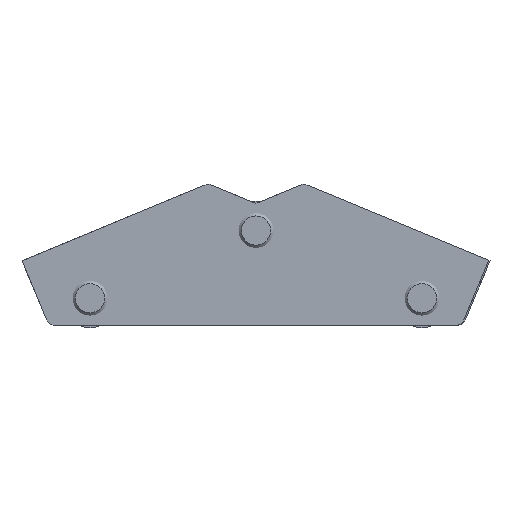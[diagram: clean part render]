
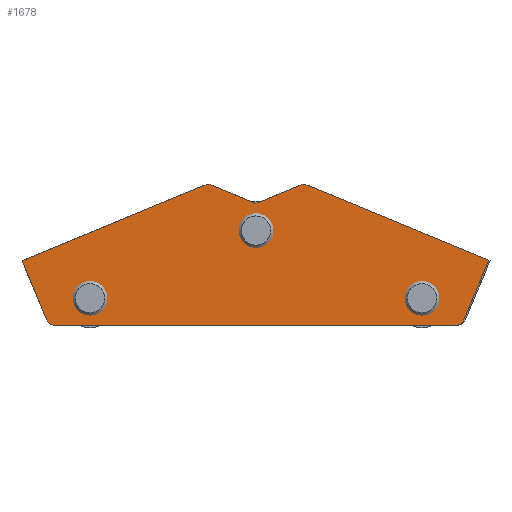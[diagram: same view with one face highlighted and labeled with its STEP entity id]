
A CAD part, left-side view. The second image highlights one B-rep face of the part: STEP entity #1678.
In plain terms, the highlighted planar face has unit normal (-1, 0, 0).
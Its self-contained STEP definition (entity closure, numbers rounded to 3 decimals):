
#61=FACE_BOUND('',#263,.T.);
#62=FACE_BOUND('',#264,.T.);
#63=FACE_BOUND('',#265,.T.);
#94=PLANE('',#1900);
#166=FACE_OUTER_BOUND('',#262,.T.);
#262=EDGE_LOOP('',(#1355,#1356,#1357,#1358,#1359,#1360,#1361,#1362,#1363,
#1364,#1365));
#263=EDGE_LOOP('',(#1366));
#264=EDGE_LOOP('',(#1367));
#265=EDGE_LOOP('',(#1368));
#391=LINE('',#2761,#541);
#397=LINE('',#2778,#547);
#401=LINE('',#2786,#551);
#402=LINE('',#2788,#552);
#403=LINE('',#2792,#553);
#404=LINE('',#2796,#554);
#405=LINE('',#2797,#555);
#541=VECTOR('',#2247,10.);
#547=VECTOR('',#2263,10.);
#551=VECTOR('',#2269,10.);
#552=VECTOR('',#2270,10.);
#553=VECTOR('',#2273,10.);
#554=VECTOR('',#2276,10.);
#555=VECTOR('',#2277,10.);
#652=CIRCLE('',#1882,3.324);
#655=CIRCLE('',#1886,3.324);
#658=CIRCLE('',#1890,3.324);
#659=CIRCLE('',#1892,2.);
#662=CIRCLE('',#1898,2.);
#663=CIRCLE('',#1901,2.);
#664=CIRCLE('',#1902,2.);
#772=VERTEX_POINT('',#2724);
#775=VERTEX_POINT('',#2732);
#778=VERTEX_POINT('',#2740);
#779=VERTEX_POINT('',#2744);
#780=VERTEX_POINT('',#2745);
#786=VERTEX_POINT('',#2759);
#791=VERTEX_POINT('',#2772);
#792=VERTEX_POINT('',#2774);
#795=VERTEX_POINT('',#2785);
#796=VERTEX_POINT('',#2787);
#797=VERTEX_POINT('',#2789);
#798=VERTEX_POINT('',#2791);
#799=VERTEX_POINT('',#2793);
#800=VERTEX_POINT('',#2795);
#972=EDGE_CURVE('',#772,#772,#652,.T.);
#976=EDGE_CURVE('',#775,#775,#655,.T.);
#980=EDGE_CURVE('',#778,#778,#658,.T.);
#981=EDGE_CURVE('',#779,#780,#659,.T.);
#989=EDGE_CURVE('',#779,#786,#391,.T.);
#995=EDGE_CURVE('',#791,#792,#662,.T.);
#997=EDGE_CURVE('',#786,#792,#397,.T.);
#1001=EDGE_CURVE('',#795,#791,#401,.T.);
#1002=EDGE_CURVE('',#796,#795,#402,.T.);
#1003=EDGE_CURVE('',#797,#796,#663,.T.);
#1004=EDGE_CURVE('',#798,#797,#403,.T.);
#1005=EDGE_CURVE('',#799,#798,#664,.T.);
#1006=EDGE_CURVE('',#800,#799,#404,.T.);
#1007=EDGE_CURVE('',#780,#800,#405,.T.);
#1355=ORIENTED_EDGE('',*,*,#981,.F.);
#1356=ORIENTED_EDGE('',*,*,#989,.T.);
#1357=ORIENTED_EDGE('',*,*,#997,.T.);
#1358=ORIENTED_EDGE('',*,*,#995,.F.);
#1359=ORIENTED_EDGE('',*,*,#1001,.F.);
#1360=ORIENTED_EDGE('',*,*,#1002,.F.);
#1361=ORIENTED_EDGE('',*,*,#1003,.F.);
#1362=ORIENTED_EDGE('',*,*,#1004,.F.);
#1363=ORIENTED_EDGE('',*,*,#1005,.F.);
#1364=ORIENTED_EDGE('',*,*,#1006,.F.);
#1365=ORIENTED_EDGE('',*,*,#1007,.F.);
#1366=ORIENTED_EDGE('',*,*,#972,.T.);
#1367=ORIENTED_EDGE('',*,*,#976,.T.);
#1368=ORIENTED_EDGE('',*,*,#980,.T.);
#1678=ADVANCED_FACE('',(#166,#61,#62,#63),#94,.F.);
#1882=AXIS2_PLACEMENT_3D('',#2726,#2213,#2214);
#1886=AXIS2_PLACEMENT_3D('',#2734,#2222,#2223);
#1890=AXIS2_PLACEMENT_3D('',#2742,#2231,#2232);
#1892=AXIS2_PLACEMENT_3D('',#2746,#2235,#2236);
#1898=AXIS2_PLACEMENT_3D('',#2775,#2258,#2259);
#1900=AXIS2_PLACEMENT_3D('',#2784,#2267,#2268);
#1901=AXIS2_PLACEMENT_3D('',#2790,#2271,#2272);
#1902=AXIS2_PLACEMENT_3D('',#2794,#2274,#2275);
#2213=DIRECTION('center_axis',(1.,0.,0.));
#2214=DIRECTION('ref_axis',(0.,0.,-1.));
#2222=DIRECTION('center_axis',(1.,0.,0.));
#2223=DIRECTION('ref_axis',(0.,0.,-1.));
#2231=DIRECTION('center_axis',(1.,0.,0.));
#2232=DIRECTION('ref_axis',(0.,0.,-1.));
#2235=DIRECTION('center_axis',(1.,0.,0.));
#2236=DIRECTION('ref_axis',(0.,0.,1.));
#2247=DIRECTION('',(0.,0.924,-0.383));
#2258=DIRECTION('center_axis',(1.,0.,0.));
#2259=DIRECTION('ref_axis',(0.,0.,1.));
#2263=DIRECTION('',(0.,0.924,0.383));
#2267=DIRECTION('center_axis',(1.,0.,0.));
#2268=DIRECTION('ref_axis',(0.,0.,-1.));
#2269=DIRECTION('',(0.,-0.924,0.383));
#2270=DIRECTION('',(0.,0.383,0.924));
#2271=DIRECTION('center_axis',(1.,0.,0.));
#2272=DIRECTION('ref_axis',(0.,0.556,-0.831));
#2273=DIRECTION('',(0.,1.,0.));
#2274=DIRECTION('center_axis',(1.,0.,0.));
#2275=DIRECTION('ref_axis',(0.,-0.556,-0.831));
#2276=DIRECTION('',(0.,0.383,-0.924));
#2277=DIRECTION('',(0.,-0.924,-0.383));
#2724=CARTESIAN_POINT('',(0.,0.,24.324));
#2726=CARTESIAN_POINT('Origin',(0.,0.,21.));
#2732=CARTESIAN_POINT('',(0.,36.75,9.324));
#2734=CARTESIAN_POINT('Origin',(0.,36.75,6.));
#2740=CARTESIAN_POINT('',(0.,-36.75,9.323));
#2742=CARTESIAN_POINT('Origin',(0.,-36.75,6.));
#2744=CARTESIAN_POINT('',(0.,-9.818,31.067));
#2745=CARTESIAN_POINT('',(0.,-11.349,31.067));
#2746=CARTESIAN_POINT('Origin',(0.,-10.583,
29.219));
#2759=CARTESIAN_POINT('',(0.,0.,27.));
#2761=CARTESIAN_POINT('',(0.,-2.745,28.137));
#2772=CARTESIAN_POINT('',(0.,11.349,31.067));
#2774=CARTESIAN_POINT('',(0.,9.818,31.067));
#2775=CARTESIAN_POINT('Origin',(0.,10.583,
29.219));
#2778=CARTESIAN_POINT('',(0.,-2.432,25.992));
#2784=CARTESIAN_POINT('Origin',(0.,0.134,12.917));
#2785=CARTESIAN_POINT('',(0.,51.8,14.311));
#2786=CARTESIAN_POINT('',(0.,51.8,14.311));
#2787=CARTESIAN_POINT('',(0.,46.384,1.235));
#2788=CARTESIAN_POINT('',(0.,45.872,0.));
#2789=CARTESIAN_POINT('',(0.,44.536,0.));
#2790=CARTESIAN_POINT('Origin',(0.,44.536,2.));
#2791=CARTESIAN_POINT('',(0.,-44.184,0.));
#2792=CARTESIAN_POINT('',(0.,-45.521,0.));
#2793=CARTESIAN_POINT('',(0.,-46.032,1.235));
#2794=CARTESIAN_POINT('Origin',(0.,-44.184,2.));
#2795=CARTESIAN_POINT('',(0.,-51.5,14.435));
#2796=CARTESIAN_POINT('',(0.,-51.5,14.435));
#2797=CARTESIAN_POINT('',(0.,0.,35.767));
